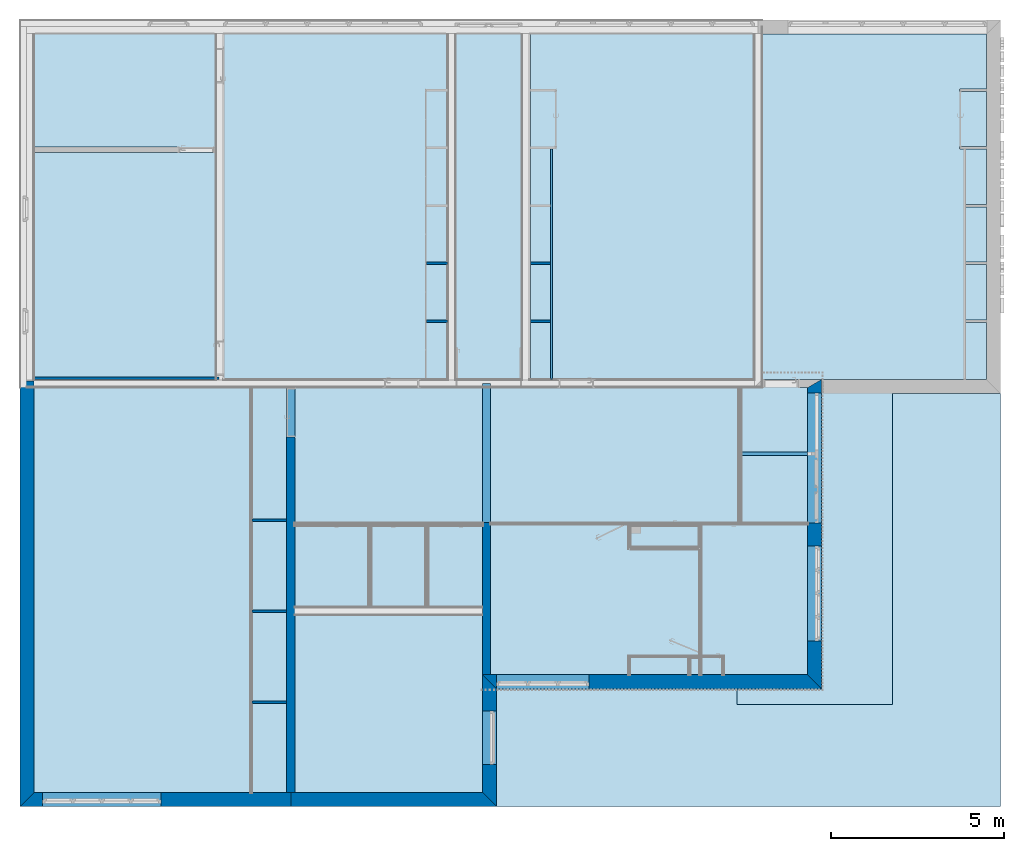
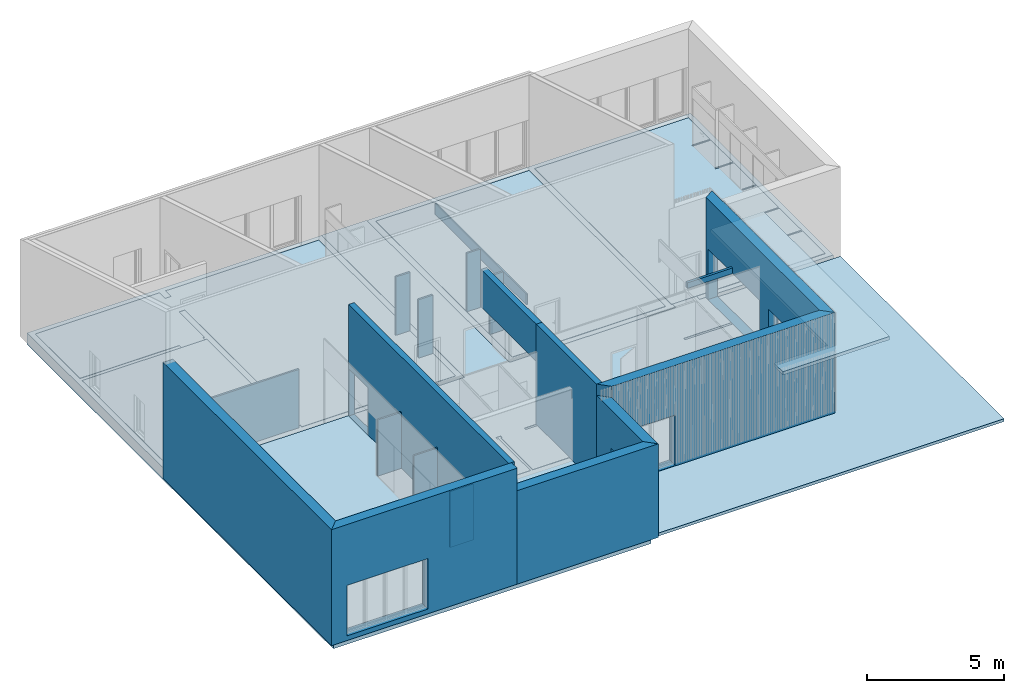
# One storey, part 3 of 34: 19 walls, 7 slabs, 8 openings.
"""IFC2X3 building model written with IfcOpenShell, lengths in metres."""

from ifc_helpers import new_model, entity, si_unit, converted_unit, derived_unit, money_unit, direction, frame, origin_with_axes, origin_2d_with_axis, place, context, subcontext, project, spatial, polyline, rectangle, outline, extrude, material, layer, layer_set, layer_usage, type_object, element, save


model = new_model("IFC2X3")

# Units and contexts
model_context = context("Model", 3, precision=1e-05, world=origin_with_axes(), true_north=direction((0.0, 1.0)))
body_context = subcontext(model_context, "Body", "Model", "MODEL_VIEW")
ifc_project = project(units=[si_unit("LENGTHUNIT", "METRE"), si_unit("AREAUNIT", "SQUARE_METRE"), si_unit("VOLUMEUNIT", "CUBIC_METRE"), converted_unit("PLANEANGLEUNIT", "DEGREE", entity("IfcPlaneAngleMeasure", 0.0174532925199), si_unit("PLANEANGLEUNIT", "RADIAN"), dimensions=[0, 0, 0, 0, 0, 0, 0]), money_unit("CHF"), converted_unit("TIMEUNIT", "Year", entity("IfcTimeMeasure", 31556926.0), si_unit("TIMEUNIT", "SECOND"), dimensions=[0, 0, 1, 0, 0, 0, 0]), si_unit("MASSUNIT", "GRAM", prefix="KILO"), si_unit("THERMODYNAMICTEMPERATUREUNIT", "DEGREE_CELSIUS"), si_unit("LUMINOUSINTENSITYUNIT", "LUMEN"), si_unit("ENERGYUNIT", "JOULE", prefix="MEGA"), derived_unit("THERMALCONDUCTANCEUNIT", [(si_unit("POWERUNIT", "WATT"), 1), (si_unit("LENGTHUNIT", "METRE"), -1), (si_unit("THERMODYNAMICTEMPERATUREUNIT", "KELVIN"), -1)]), derived_unit("SPECIFICHEATCAPACITYUNIT", [(si_unit("ENERGYUNIT", "JOULE"), 1), (si_unit("MASSUNIT", "GRAM", prefix="KILO"), -1), (si_unit("THERMODYNAMICTEMPERATUREUNIT", "KELVIN"), -1)]), derived_unit("MASSDENSITYUNIT", [(si_unit("MASSUNIT", "GRAM", prefix="KILO"), 1), (si_unit("VOLUMEUNIT", "CUBIC_METRE"), -1)])], contexts=[model_context])

# Site, building, storey
site_placement = place(None, origin_with_axes())
site = spatial("IfcSite", under=ifc_project, at=site_placement, Name="Site", CompositionType="ELEMENT")
building_placement = place(site_placement, origin_with_axes())
building = spatial("IfcBuilding", under=site, at=building_placement, Name="Bâtiment", CompositionType="ELEMENT")
storey_placement = place(building_placement, origin_with_axes())
storey = spatial("IfcBuildingStorey", under=building, at=storey_placement, Name="Rez-de-chaussée", CompositionType="ELEMENT", Elevation=0.0)

# Slabs
ifc_material_1 = material(Name="Linoleum")
ifc_layer_1 = layer(ifc_material_1, 0.01, ventilated="UNKNOWN")
ifc_layer_set_1 = layer_set([ifc_layer_1], Name="Linoleum 0.01")
ifc_layer_usage_1 = layer_usage(ifc_layer_set_1, "AXIS3", "NEGATIVE", 0.01)
slab_type_1 = type_object("IfcSlabType", Name="Linoleum 10", PredefinedType="FLOOR")
slab_1_placement = place(storey_placement, frame((32.3194697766, 15.12, 0.0), z_axis=(0.0, 0.0, 1.0), x_axis=(1.0, 0.0, 0.0)))
element("IfcSlab", 1, at=slab_1_placement, inside=storey, type_object=slab_type_1, material=ifc_layer_usage_1, Name="Sol souple posé collée", PredefinedType="FLOOR", context=body_context, shape_type="SweptSolid", body=[
    extrude(outline(polyline([(0.0, 0.0), (0.0450000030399, 0.0), (1.0450000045, 0.0), (6.4799999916, 0.0), (6.4799999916, 1.65000006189), (5.88000005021, 1.65000006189), (5.88000005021, 1.7200000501), (6.4799999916, 1.7200000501), (6.4799999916, 3.31999999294), (5.88000005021, 3.31999999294), (5.88000005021, 3.38999998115), (6.4799999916, 3.38999998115), (6.4799999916, 4.99000007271), (5.88000005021, 4.99000007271), (5.88000005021, 5.06000006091), (6.4799999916, 5.06000006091), (6.4799999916, 6.66000000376), (5.70999997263, 6.66000000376), (5.70999997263, 6.72999999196), (6.4799999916, 6.72999999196), (6.4799999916, 8.32999993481), (5.70999997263, 8.32999993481), (5.70999997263, 8.40000007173), (6.4799999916, 8.40000007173), (6.4799999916, 9.98012566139), (0.759999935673, 9.98012566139), (0.0, 9.98012566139), (0.0, 0.0)])), frame((0.0, 0.0, -0.01), z_axis=(0.0, 0.0, 1.0), x_axis=(1.0, 0.0, 0.0)), (0.0, 0.0, 1.0), 0.01),
])
ifc_layer_usage_2 = layer_usage(ifc_layer_set_1, "AXIS3", "NEGATIVE", 0.01)
slab_2_placement = place(storey_placement, frame((25.6194697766, 25.1001256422, 0.0), z_axis=(0.0, 0.0, 1.0), x_axis=(1.0, 0.0, 0.0)))
element("IfcSlab", 2, at=slab_2_placement, inside=storey, type_object=slab_type_1, material=ifc_layer_usage_2, Name="Sol souple posé collée", PredefinedType="FLOOR", context=body_context, shape_type="SweptSolid", body=[
    extrude(outline(polyline([(0.0, 0.0), (0.0, -9.98012564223), (0.824999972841, -9.98012564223), (1.82499997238, -9.98012564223), (6.45999997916, -9.98012564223), (6.45999997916, 0.0), (0.74000008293, 0.0), (0.0, 0.0)])), frame((0.0, 0.0, -0.01), z_axis=(0.0, 0.0, 1.0), x_axis=(1.0, 0.0, 0.0)), (0.0, 0.0, 1.0), 0.01),
])
ifc_material_2 = material(Name="Chape ciment")
ifc_layer_2 = layer(ifc_material_2, 0.07, ventilated="UNKNOWN")
ifc_material_3 = material(Name="Béton armé (Coulé)")
ifc_layer_3 = layer(ifc_material_3, 0.13, ventilated="UNKNOWN")
ifc_material_4 = material(Name="Isolation - Polystyrène extrudé")
ifc_layer_4 = layer(ifc_material_4, 0.09, ventilated="UNKNOWN")
ifc_material_5 = material(Name="Sable")
ifc_layer_5 = layer(ifc_material_5, 0.05, ventilated="UNKNOWN")
ifc_material_6 = material(Name="Gravier")
ifc_layer_6 = layer(ifc_material_6, 0.18, ventilated="UNKNOWN")
ifc_layer_set_2 = layer_set([ifc_layer_2, ifc_layer_3, ifc_layer_4, ifc_layer_5, ifc_layer_6], Name="Dalle basse sur terre plein sans rvt")
ifc_layer_usage_3 = layer_usage(ifc_layer_set_2, "AXIS3", "NEGATIVE", 0.52)
slab_type_2 = type_object("IfcSlabType", Name="Dalle basse sur terre plein sans rvt 520", PredefinedType="FLOOR")
slab_3_placement = place(storey_placement, frame((11.0494697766, 25.3201256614, -0.08), z_axis=(0.0, 0.0, 1.0), x_axis=(1.0, 0.0, 0.0)))
element("IfcSlab", 3, at=slab_3_placement, inside=storey, type_object=slab_type_2, material=ifc_layer_usage_3, Name="DALLE-001", PredefinedType="FLOOR", context=body_context, shape_type="SweptSolid", body=[
    extrude(outline(polyline([(0.0, 0.0), (0.0, -22.3599601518), (13.4, -22.3599601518), (13.4, -18.96), (22.8, -18.96), (22.8, -10.4201256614), (27.97, -10.4200651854), (27.97, 0.0), (0.0, 0.0)])), frame((0.0, 0.0, -0.45), z_axis=(0.0, 0.0, 1.0), x_axis=(1.0, 0.0, 0.0)), (0.0, 0.0, 1.0), 0.52),
])
ifc_layer_7 = layer(ifc_material_3, 0.15, ventilated="UNKNOWN")
ifc_layer_set_3 = layer_set([ifc_layer_7], Name="Béton armé (Coulé) 0.15")
ifc_layer_usage_4 = layer_usage(ifc_layer_set_3, "AXIS3", "NEGATIVE", 0.15)
slab_type_3 = type_object("IfcSlabType", Name="Béton armé (Coulé) 150", PredefinedType="FLOOR")
slab_4_placement = place(storey_placement, frame((33.849469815, 6.36012563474, 2.95), z_axis=(0.0, 0.0, 1.0), x_axis=(1.0, 0.0, 0.0)))
element("IfcSlab", 4, at=slab_4_placement, inside=storey, type_object=slab_type_3, material=ifc_layer_usage_4, Name="DALLE-001", PredefinedType="FLOOR", context=body_context, shape_type="SweptSolid", body=[
    extrude(outline(polyline([(0.0, 0.0), (-2.2600000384, 0.0), (-2.2600000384, -0.639999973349), (2.23999997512, -0.639999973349), (2.23999997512, 8.53987436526), (0.0, 8.53987436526), (0.0, 0.0)])), frame((0.0, 0.0, -0.15), z_axis=(0.0, 0.0, 1.0), x_axis=(1.0, 0.0, 0.0)), (0.0, 0.0, 1.0), 0.15),
])
ifc_layer_8 = layer(ifc_material_3, 0.13, ventilated="UNKNOWN")
ifc_layer_set_4 = layer_set([ifc_layer_8], Name="Béton armé (Coulé) 0.13")
ifc_layer_usage_5 = layer_usage(ifc_layer_set_4, "AXIS3", "NEGATIVE", 0.13)
slab_type_4 = type_object("IfcSlabType", Name="Béton armé (Coulé) 130", PredefinedType="FLOOR")
slab_5_placement = place(storey_placement, frame((24.6394697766, 6.17012566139, -0.02), z_axis=(0.0, 0.0, 1.0), x_axis=(1.0, 0.0, 0.0)))
element("IfcSlab", 5, at=slab_5_placement, inside=storey, type_object=slab_type_4, material=ifc_layer_usage_5, Name="Sol moquette tufté en dalle", PredefinedType="FLOOR", context=body_context, shape_type="SweptSolid", body=[
    extrude(outline(polyline([(0.0, 0.0), (0.0, -3.39996015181), (14.57, -3.39996015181), (14.57, 8.53987433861), (9.4, 8.53987433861), (9.4, 0.0), (0.0, 0.0)])), frame((0.0, 0.0, -0.13), z_axis=(0.0, 0.0, 1.0), x_axis=(1.0, 0.0, 0.0)), (0.0, 0.0, 1.0), 0.13),
])
ifc_material_7 = material(Name="Moquette")
ifc_layer_9 = layer(ifc_material_7, 0.01, ventilated="UNKNOWN")
ifc_layer_set_5 = layer_set([ifc_layer_9], Name="Moquette 0.01")
ifc_layer_usage_6 = layer_usage(ifc_layer_set_5, "AXIS3", "NEGATIVE", 0.01)
slab_type_5 = type_object("IfcSlabType", Name="Moquette 10", PredefinedType="FLOOR")
slab_6_placement = place(storey_placement, frame((11.2694697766, 21.68, 0.0), z_axis=(0.0, 0.0, 1.0), x_axis=(1.0, 0.0, 0.0)))
element("IfcSlab", 6, at=slab_6_placement, inside=storey, type_object=slab_type_5, material=ifc_layer_usage_6, Name="Sol moquette tufté en dalle", PredefinedType="FLOOR", context=body_context, shape_type="SweptSolid", body=[
    extrude(outline(polyline([(0.0, 0.0), (0.0, -6.49), (5.25, -6.49), (5.25, 0.0), (0.0, 0.0)])), frame((0.0, 0.0, -0.01), z_axis=(0.0, 0.0, 1.0), x_axis=(1.0, 0.0, 0.0)), (0.0, 0.0, 1.0), 0.01),
])
ifc_material_8 = material(Name="Finition sol - Parquet")
ifc_layer_10 = layer(ifc_material_8, 0.01, ventilated="UNKNOWN")
ifc_layer_set_6 = layer_set([ifc_layer_10], Name="Finition sol - Parquet 0.01")
ifc_layer_usage_7 = layer_usage(ifc_layer_set_6, "AXIS3", "NEGATIVE", 0.01)
slab_type_6 = type_object("IfcSlabType", Name="Finition sol - Parquet 10", PredefinedType="FLOOR")
slab_7_placement = place(storey_placement, frame((11.2694697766, 3.18016550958, 0.0), z_axis=(0.0, 0.0, 1.0), x_axis=(1.0, 0.0, 0.0)))
element("IfcSlab", 7, at=slab_7_placement, inside=storey, type_object=slab_type_6, material=ifc_layer_usage_7, Name="Sol souple pose collée", PredefinedType="FLOOR", context=body_context, shape_type="SweptSolid", body=[
    extrude(outline(polyline([(0.0, 0.0), (0.26, 0.0), (3.66, 0.0), (7.3, 0.0), (7.3, 10.2748344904), (7.54, 10.2748344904), (7.54, 7.79996015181), (8.61, 7.79996015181), (8.61, 7.69996015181), (7.54, 7.69996015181), (7.54, 5.35996015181), (9.66, 5.35996015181), (9.66, 7.69996015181), (9.61, 7.69996015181), (9.61, 7.79996015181), (10.26, 7.79996015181), (10.26, 7.69996015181), (9.76, 7.69996015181), (9.76, 5.35996015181), (11.31, 5.35996015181), (11.31, 7.69996015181), (11.26, 7.69996015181), (11.26, 7.79996015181), (11.46, 7.79996015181), (11.46, 7.69996015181), (11.41, 7.69996015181), (11.41, 5.35996015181), (12.96, 5.35996015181), (12.96, 7.69996015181), (12.46, 7.69996015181), (12.46, 7.79996015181), (14.33, 7.79996015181), (16.12, 7.79996015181), (16.12, 7.72996015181), (13.2, 7.72996015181), (13.2, 3.39996015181), (13.38, 3.39996015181), (16.02, 3.39996015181), (18.91, 3.39996015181), (18.91, 3.94996015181), (19.23, 3.94996015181), (19.23, 3.99996015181), (19.3, 3.99996015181), (19.3, 3.94996015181), (19.32, 3.94996015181), (19.32, 3.89996015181), (19.3, 3.89996015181), (19.3, 3.39996015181), (22.36, 3.39996015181), (22.36, 4.39483446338), (22.36, 7.10483446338), (22.36, 7.72996015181), (20.35, 7.72996015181), (20.35, 7.79996015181), (22.58, 7.79996015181), (22.58, 9.73983446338), (20.36, 9.73996015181), (20.36, 9.83983446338), (22.58, 9.83983446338), (22.58, 11.5198344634), (22.36, 11.5198344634), (22.36, 11.6998344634), (22.095, 11.6998344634), (22.095, 11.9398344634), (21.095, 11.9398344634), (21.095, 11.6998344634), (16.175, 11.6998344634), (16.175, 11.9398344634), (15.175, 11.9398344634), (15.175, 11.6998344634), (14.33, 11.6998344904), (14.09, 11.6998344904), (14.09, 22.1399601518), (12.19, 22.1399601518), (12.19, 11.9398344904), (12.19, 11.6998344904), (11.1233396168, 11.6998344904), (11.1233396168, 11.9398344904), (11.95, 11.9398344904), (11.95, 21.9199601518), (5.49, 21.9199601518), (5.49, 21.5124851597), (5.23, 21.5124851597), (5.23, 21.9199601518), (0.0, 21.9199601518), (0.0, 18.6583344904), (4.185, 18.6583344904), (4.185, 18.4998344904), (5.185, 18.4998344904), (5.185, 18.6583344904), (5.25, 18.6583344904), (5.25, 20.5124851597), (5.49, 20.5124851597), (5.49, 13.0548344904), (5.23, 13.0548344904), (5.23, 12.0548344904), (5.47, 12.0548344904), (5.47, 11.9398344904), (10.1233396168, 11.9398344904), (10.1233396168, 11.6998344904), (7.54, 11.6998344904), (7.54, 11.6748344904), (7.3, 11.6748344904), (7.3, 11.6998344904), (0.0, 11.6998344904), (0.0, 0.0)])), frame((0.0, 0.0, -0.01), z_axis=(0.0, 0.0, 1.0), x_axis=(1.0, 0.0, 0.0)), (0.0, 0.0, 1.0), 0.01),
])

# Wall, openings
ifc_material_9 = material(Name="Finition int - Enduit minéral")
ifc_layer_11 = layer(ifc_material_9, 0.01, ventilated="UNKNOWN")
ifc_material_10 = material(Name="Isolation - Fibres de bois")
ifc_layer_12 = layer(ifc_material_10, 0.18, ventilated="UNKNOWN")
ifc_layer_13 = layer(ifc_material_3, 0.2, ventilated="UNKNOWN")
ifc_material_11 = material(Name="Finition int - Enduit plâtre")
ifc_layer_14 = layer(ifc_material_11, 0.02, ventilated="UNKNOWN")
ifc_layer_set_7 = layer_set([ifc_layer_11, ifc_layer_12, ifc_layer_13, ifc_layer_14], Name="Mur 20cm + iso 18 + enduit")
ifc_layer_usage_8 = layer_usage(ifc_layer_set_7, "AXIS2", "NEGATIVE", 0.29)
wall_type_1 = type_object("IfcWallType", Name="Mur 20cm + iso 18 + enduit  410", PredefinedType="NOTDEFINED")
wall_1_placement = place(storey_placement, frame((33.7494697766, 15.07, -0.21), z_axis=(0.0, 0.0, 1.0), x_axis=(0.0, -1.0, 0.0)))
wall_1 = element("IfcWallStandardCase", 8, at=wall_1_placement, inside=storey, type_object=wall_type_1, material=ifc_layer_usage_8, Name="Mur ext 20+18isolant", context=body_context, shape_type="SweptSolid", body=[
    extrude(outline(polyline([(0.19, -0.12), (8.48987433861, -0.12), (8.89987433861, 0.29), (-0.05, 0.29), (0.19, -0.12)])), origin_with_axes(), (0.0, 0.0, 1.0), 4.67),
])
opening_1_placement = place(wall_1_placement, frame((6.14, 0.0, 0.21), z_axis=(0.0, 0.0, 1.0), x_axis=(1.0, 0.0, 0.0)))
element("IfcOpeningElement", 9, at=opening_1_placement, cuts=wall_1, Name="FENETRE-005", context=body_context, shape_type="SweptSolid", body=[
    extrude(rectangle(XDim=2.75, YDim=2.25, at=origin_2d_with_axis()), frame((0.0, 0.2, 1.125), z_axis=(0.0, -1.0, 0.0), x_axis=(-1.0, 0.0, 0.0)), (0.0, 0.0, 1.0), 0.73),
    extrude(rectangle(XDim=2.75, YDim=2.25, at=origin_2d_with_axis()), frame((0.0, 0.2, 1.125), z_axis=(0.0, 1.0, 0.0), x_axis=(-1.0, 0.0, 0.0)), (0.0, 0.0, 1.0), 0.5),
])
opening_2_placement = place(wall_1_placement, frame((2.23000001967, 0.0, 0.21), z_axis=(0.0, 0.0, 1.0), x_axis=(1.0, 0.0, 0.0)))
element("IfcOpeningElement", 10, at=opening_2_placement, cuts=wall_1, Name="PORTE-PP90 A2 - PF1/2H", context=body_context, shape_type="SweptSolid", body=[
    extrude(rectangle(XDim=3.76, YDim=2.25, at=origin_2d_with_axis()), frame((0.0, 0.2, 1.125), z_axis=(0.0, 1.0, 0.0), x_axis=(1.0, 0.0, 0.0)), (0.0, 0.0, -1.0), 0.73),
    extrude(rectangle(XDim=3.76, YDim=2.25, at=origin_2d_with_axis()), frame((0.0, 0.2, 1.125), z_axis=(0.0, -1.0, 0.0), x_axis=(1.0, 0.0, 0.0)), (0.0, 0.0, -1.0), 0.5),
])

# Wall, opening
ifc_layer_usage_9 = layer_usage(ifc_layer_set_7, "AXIS2", "NEGATIVE", 0.29)
wall_2_placement = place(storey_placement, frame((33.7494697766, 6.46012566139, -0.21), z_axis=(0.0, 0.0, 1.0), x_axis=(-1.0, 0.0, 0.0)))
wall_2 = element("IfcWallStandardCase", 11, at=wall_2_placement, inside=storey, type_object=wall_type_1, material=ifc_layer_usage_9, Name="Mur ext 20+18isolant", context=body_context, shape_type="SweptSolid", body=[
    extrude(outline(polyline([(0.12, -0.12), (9.52, -0.12), (9.11, 0.29), (-0.29, 0.29), (0.12, -0.12)])), origin_with_axes(), (0.0, 0.0, 1.0), 4.67),
])
opening_3_placement = place(wall_2_placement, frame((7.78, 0.0, 0.21), z_axis=(0.0, 0.0, 1.0), x_axis=(1.0, 0.0, 0.0)))
element("IfcOpeningElement", 12, at=opening_3_placement, cuts=wall_2, Name="FENETRE-005", context=body_context, shape_type="SweptSolid", body=[
    extrude(rectangle(XDim=2.68, YDim=2.25, at=origin_2d_with_axis()), frame((0.0, 0.2, 1.125), z_axis=(0.0, 1.0, 0.0), x_axis=(-1.0, 0.0, 0.0)), (0.0, 0.0, -1.0), 0.73),
    extrude(rectangle(XDim=2.68, YDim=2.25, at=origin_2d_with_axis()), frame((0.0, 0.2, 1.125), z_axis=(0.0, -1.0, 0.0), x_axis=(-1.0, 0.0, 0.0)), (0.0, 0.0, -1.0), 0.5),
])

# Walls
ifc_layer_usage_10 = layer_usage(ifc_layer_set_7, "AXIS2", "NEGATIVE", 0.29)
wall_3_placement = place(storey_placement, frame((24.3494697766, 3.06016550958, -0.21), z_axis=(0.0, 0.0, 1.0), x_axis=(-1.0, 0.0, 0.0)))
element("IfcWallStandardCase", 13, at=wall_3_placement, inside=storey, type_object=wall_type_1, material=ifc_layer_usage_10, Name="Mur ext 20+18isolant", context=body_context, shape_type="SweptSolid", body=[
    extrude(outline(polyline([(0.12, -0.12), (5.66, -0.12), (5.66, 0.29), (-0.29, 0.29), (0.12, -0.12)])), origin_with_axes(), (0.0, 0.0, 1.0), 4.17),
])
ifc_layer_usage_11 = layer_usage(ifc_layer_set_7, "AXIS2", "NEGATIVE", 0.29)
wall_4_placement = place(storey_placement, frame((11.1494697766, 3.06016550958, -0.21), z_axis=(0.0, 0.0, 1.0), x_axis=(0.0, 1.0, 0.0)))
element("IfcWallStandardCase", 14, at=wall_4_placement, inside=storey, type_object=wall_type_1, material=ifc_layer_usage_11, Name="Mur ext 20+18isolant", context=body_context, shape_type="SweptSolid", body=[
    extrude(outline(polyline([(0.12, -0.12), (12.0098344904, -0.12), (12.0098344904, 0.29), (-0.29, 0.29), (0.12, -0.12)])), origin_with_axes(), (0.0, 0.0, 1.0), 5.17),
])

# Wall, opening
ifc_layer_usage_12 = layer_usage(ifc_layer_set_7, "AXIS2", "NEGATIVE", 0.29)
wall_5_placement = place(storey_placement, frame((24.3494697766, 6.46012566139, -0.21), z_axis=(0.0, 0.0, 1.0), x_axis=(0.0, -1.0, 0.0)))
wall_5 = element("IfcWallStandardCase", 15, at=wall_5_placement, inside=storey, type_object=wall_type_1, material=ifc_layer_usage_12, Name="Mur ext 20+18isolant", context=body_context, shape_type="SweptSolid", body=[
    extrude(outline(polyline([(-0.12, -0.12), (3.27996015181, -0.12), (3.68996015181, 0.29), (0.29, 0.29), (-0.12, -0.12)])), origin_with_axes(), (0.0, 0.0, 1.0), 4.17),
])
opening_4_placement = place(wall_5_placement, frame((1.69996015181, 0.0, 0.21), z_axis=(0.0, 0.0, 1.0), x_axis=(1.0, 0.0, 0.0)))
element("IfcOpeningElement", 16, at=opening_4_placement, cuts=wall_5, Name="FENETRE-005", context=body_context, shape_type="SweptSolid", body=[
    extrude(rectangle(XDim=1.54, YDim=2.25, at=origin_2d_with_axis()), frame((0.0, 0.2, 1.125), z_axis=(0.0, -1.0, 0.0), x_axis=(-1.0, 0.0, 0.0)), (0.0, 0.0, 1.0), 0.73),
    extrude(rectangle(XDim=1.54, YDim=2.25, at=origin_2d_with_axis()), frame((0.0, 0.2, 1.125), z_axis=(0.0, 1.0, 0.0), x_axis=(-1.0, 0.0, 0.0)), (0.0, 0.0, 1.0), 0.5),
])

ifc_layer_usage_13 = layer_usage(ifc_layer_set_7, "AXIS2", "NEGATIVE", 0.29)
wall_6_placement = place(storey_placement, frame((18.6894697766, 3.06016550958, -0.21), z_axis=(0.0, 0.0, 1.0), x_axis=(-1.0, 0.0, 0.0)))
wall_6 = element("IfcWallStandardCase", 17, at=wall_6_placement, inside=storey, type_object=wall_type_1, material=ifc_layer_usage_13, Name="Mur ext 20+18isolant", context=body_context, shape_type="SweptSolid", body=[
    extrude(outline(polyline([(0.0, -0.12), (7.42, -0.12), (7.83, 0.29), (0.0, 0.29), (0.0, -0.12)])), origin_with_axes(), (0.0, 0.0, 1.0), 5.17),
])
opening_5_placement = place(wall_6_placement, frame((5.47, 0.0, 0.21), z_axis=(0.0, 0.0, 1.0), x_axis=(1.0, 0.0, 0.0)))
element("IfcOpeningElement", 18, at=opening_5_placement, cuts=wall_6, Name="FENETRE-005", context=body_context, shape_type="SweptSolid", body=[
    extrude(rectangle(XDim=3.42, YDim=2.25, at=origin_2d_with_axis()), frame((0.0, 0.2, 1.125), z_axis=(0.0, -1.0, 0.0), x_axis=(1.0, 0.0, 0.0)), (0.0, 0.0, 1.0), 0.73),
    extrude(rectangle(XDim=3.42, YDim=2.25, at=origin_2d_with_axis()), frame((0.0, 0.2, 1.125), z_axis=(0.0, 1.0, 0.0), x_axis=(1.0, 0.0, 0.0)), (0.0, 0.0, 1.0), 0.5),
])

# Wall
ifc_layer_15 = layer(ifc_material_11, 0.02, ventilated="UNKNOWN")
ifc_layer_16 = layer(ifc_material_3, 0.2, ventilated="UNKNOWN")
ifc_layer_17 = layer(ifc_material_11, 0.02, ventilated="UNKNOWN")
ifc_layer_set_8 = layer_set([ifc_layer_15, ifc_layer_16, ifc_layer_17], Name="Mur 20cm + enduit 2cm")
ifc_layer_usage_14 = layer_usage(ifc_layer_set_8, "AXIS2", "NEGATIVE", 0.12)
wall_type_2 = type_object("IfcWallType", Name="Mur 20cm + enduit 2cm 240", PredefinedType="NOTDEFINED")
wall_7_placement = place(storey_placement, frame((24.3494697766, 15.0031256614, 2.8), z_axis=(0.0, 0.0, 1.0), x_axis=(0.0, -1.0, 0.0)))
element("IfcWallStandardCase", 19, at=wall_7_placement, inside=storey, type_object=wall_type_2, material=ifc_layer_usage_14, Name="MUR_EXT-006", context=body_context, shape_type="SweptSolid", body=[
    extrude(outline(polyline([(0.0, -0.12), (4.023, -0.12), (4.023, 0.12), (0.0, 0.12), (0.0, -0.12)])), origin_with_axes(), (0.0, 0.0, 1.0), 1.66),
])

# Wall, opening
ifc_layer_usage_15 = layer_usage(ifc_layer_set_8, "AXIS2", "POSITIVE", -0.12)
wall_8_placement = place(storey_placement, frame((18.6894697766, 3.06016550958, -0.21), z_axis=(0.0, 0.0, 1.0), x_axis=(0.0, 1.0, 0.0)))
wall_8 = element("IfcWallStandardCase", 20, at=wall_8_placement, inside=storey, type_object=wall_type_2, material=ifc_layer_usage_15, Name="MUR_EXT-007", context=body_context, shape_type="SweptSolid", body=[
    extrude(outline(polyline([(0.12, -0.12), (11.8198344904, -0.12), (11.8198344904, 0.12), (0.12, 0.12), (0.12, -0.12)])), origin_with_axes(), (0.0, 0.0, 1.0), 5.17),
])
opening_6_placement = place(wall_8_placement, frame((11.0948344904, 0.0, 0.21), z_axis=(0.0, 0.0, 1.0), x_axis=(1.0, 0.0, 0.0)))
element("IfcOpeningElement", 21, at=opening_6_placement, cuts=wall_8, Name="PP 90+40 - A2 - PF 1/2H", context=body_context, shape_type="SweptSolid", body=[
    extrude(rectangle(XDim=1.4, YDim=2.1, at=origin_2d_with_axis()), frame((0.0, 0.24, 1.05), z_axis=(0.0, -1.0, 0.0), x_axis=(1.0, 0.0, 0.0)), (0.0, 0.0, 1.0), 0.72),
    extrude(rectangle(XDim=1.46, YDim=2.13, at=origin_2d_with_axis()), frame((0.0, 0.12, 1.065), z_axis=(0.0, -1.0, 0.0), x_axis=(1.0, 0.0, 0.0)), (0.0, 0.0, -1.0), 0.24),
    extrude(rectangle(XDim=1.45, YDim=2.125, at=origin_2d_with_axis()), frame((0.0, -0.12, 1.0625), z_axis=(0.0, 1.0, 0.0), x_axis=(1.0, 0.0, 0.0)), (0.0, 0.0, -1.0), 0.24),
])

# Walls
ifc_layer_usage_16 = layer_usage(ifc_layer_set_8, "AXIS2", "NEGATIVE", 0.12)
wall_9_placement = place(storey_placement, frame((24.3494697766, 10.9801256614, -0.21), z_axis=(0.0, 0.0, 1.0), x_axis=(0.0, -1.0, 0.0)))
element("IfcWallStandardCase", 22, at=wall_9_placement, inside=storey, type_object=wall_type_2, material=ifc_layer_usage_16, Name="MUR_EXT-006", context=body_context, shape_type="SweptSolid", body=[
    extrude(outline(polyline([(0.0, -0.12), (4.4, -0.12), (4.4, 0.12), (0.0, 0.12), (0.0, -0.12)])), origin_with_axes(), (0.0, 0.0, 1.0), 4.67),
])
ifc_material_12 = material(Name="Finition int - Plaque de plâtre")
ifc_layer_18 = layer(ifc_material_12, 0.013, ventilated="UNKNOWN")
ifc_material_13 = material(Name="Isolation - Laine de verre")
ifc_layer_19 = layer(ifc_material_13, 0.044, ventilated="UNKNOWN")
ifc_layer_20 = layer(ifc_material_12, 0.013, ventilated="UNKNOWN")
ifc_layer_set_9 = layer_set([ifc_layer_18, ifc_layer_19, ifc_layer_20], Name="Cloison 72/48")
ifc_layer_usage_17 = layer_usage(ifc_layer_set_9, "AXIS2", "NEGATIVE", 0.0)
wall_type_3 = type_object("IfcWallType", Name="Cloison 72/48 70", PredefinedType="NOTDEFINED")
wall_10_placement = place(storey_placement, frame((26.1994697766, 16.77, 0.0), z_axis=(0.0, 0.0, 1.0), x_axis=(-1.0, 0.0, 0.0)))
element("IfcWallStandardCase", 23, at=wall_10_placement, inside=storey, type_object=wall_type_3, material=ifc_layer_usage_17, Name="MUR_EXT-006", context=body_context, shape_type="SweptSolid", body=[
    extrude(outline(polyline([(0.0, -0.07), (0.58, -0.07), (0.58, 0.0), (0.0, 0.0), (0.0, -0.07)])), origin_with_axes(), (0.0, 0.0, 1.0), 2.6),
])
ifc_layer_usage_18 = layer_usage(ifc_layer_set_9, "AXIS2", "NEGATIVE", 0.0)
wall_11_placement = place(storey_placement, frame((26.1994697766, 18.44, 0.0), z_axis=(0.0, 0.0, 1.0), x_axis=(-1.0, 0.0, 0.0)))
element("IfcWallStandardCase", 24, at=wall_11_placement, inside=storey, type_object=wall_type_3, material=ifc_layer_usage_18, Name="MUR_EXT-006", context=body_context, shape_type="SweptSolid", body=[
    extrude(outline(polyline([(0.0, -0.07), (0.58, -0.07), (0.58, 0.0), (0.0, 0.0), (0.0, -0.07)])), origin_with_axes(), (0.0, 0.0, 1.0), 2.6),
])
ifc_layer_usage_19 = layer_usage(ifc_layer_set_9, "AXIS2", "POSITIVE", 0.0)
wall_12_placement = place(storey_placement, frame((22.6194697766, 16.77, 0.0), z_axis=(0.0, 0.0, 1.0), x_axis=(1.0, 0.0, 0.0)))
element("IfcWallStandardCase", 25, at=wall_12_placement, inside=storey, type_object=wall_type_3, material=ifc_layer_usage_19, Name="MUR_EXT-006", context=body_context, shape_type="SweptSolid", body=[
    extrude(outline(polyline([(0.0, 0.0), (0.6, 0.0), (0.6, 0.07), (0.0, 0.07), (0.0, 0.0)])), origin_with_axes(), (0.0, 0.0, 1.0), 2.6),
])
ifc_layer_usage_20 = layer_usage(ifc_layer_set_9, "AXIS2", "POSITIVE", 0.0)
wall_13_placement = place(storey_placement, frame((22.6194697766, 18.44, 0.0), z_axis=(0.0, 0.0, 1.0), x_axis=(1.0, 0.0, 0.0)))
element("IfcWallStandardCase", 26, at=wall_13_placement, inside=storey, type_object=wall_type_3, material=ifc_layer_usage_20, Name="MUR_EXT-006", context=body_context, shape_type="SweptSolid", body=[
    extrude(outline(polyline([(0.0, 0.0), (0.6, 0.0), (0.6, 0.07), (0.0, 0.07), (0.0, 0.0)])), origin_with_axes(), (0.0, 0.0, 1.0), 2.6),
])
ifc_layer_usage_21 = layer_usage(ifc_layer_set_9, "AXIS2", "POSITIVE", 0.0)
wall_14_placement = place(storey_placement, frame((17.5694697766, 8.38016550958, 0.0), z_axis=(0.0, 0.0, 1.0), x_axis=(1.0, 0.0, 0.0)))
element("IfcWallStandardCase", 27, at=wall_14_placement, inside=storey, type_object=wall_type_3, material=ifc_layer_usage_21, Name="MUR_EXT-007", context=body_context, shape_type="SweptSolid", body=[
    extrude(outline(polyline([(0.0, 0.0), (1.0, 0.0), (1.0, 0.07), (0.0, 0.07), (0.0, 0.0)])), origin_with_axes(), (0.0, 0.0, 1.0), 2.5),
])
ifc_layer_usage_22 = layer_usage(ifc_layer_set_9, "AXIS2", "POSITIVE", 0.0)
wall_15_placement = place(storey_placement, frame((17.5694697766, 11.0101655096, 0.0), z_axis=(0.0, 0.0, 1.0), x_axis=(1.0, 0.0, 0.0)))
element("IfcWallStandardCase", 28, at=wall_15_placement, inside=storey, type_object=wall_type_3, material=ifc_layer_usage_22, Name="MUR_EXT-008", context=body_context, shape_type="SweptSolid", body=[
    extrude(outline(polyline([(0.0, 0.0), (1.0, 0.0), (1.0, 0.07), (0.0, 0.07), (0.0, 0.0)])), origin_with_axes(), (0.0, 0.0, 1.0), 2.5),
])
ifc_layer_usage_23 = layer_usage(ifc_layer_set_9, "AXIS2", "POSITIVE", 0.0)
wall_16_placement = place(storey_placement, frame((17.5694697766, 5.75016550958, 0.0), z_axis=(0.0, 0.0, 1.0), x_axis=(1.0, 0.0, 0.0)))
element("IfcWallStandardCase", 29, at=wall_16_placement, inside=storey, type_object=wall_type_3, material=ifc_layer_usage_23, Name="MUR_EXT-006", context=body_context, shape_type="SweptSolid", body=[
    extrude(outline(polyline([(0.0, 0.0), (1.0, 0.0), (1.0, 0.07), (0.0, 0.07), (0.0, 0.0)])), origin_with_axes(), (0.0, 0.0, 1.0), 2.5),
])
ifc_layer_usage_24 = layer_usage(ifc_layer_set_9, "AXIS2", "NEGATIVE", 0.0)
wall_17_placement = place(storey_placement, frame((11.1494697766, 15.19, 0.0), z_axis=(0.0, 0.0, 1.0), x_axis=(1.0, 0.0, 0.0)))
element("IfcWallStandardCase", 30, at=wall_17_placement, inside=storey, type_object=wall_type_3, material=ifc_layer_usage_24, Name="MUR_EXT-006", context=body_context, shape_type="SweptSolid", body=[
    extrude(outline(polyline([(0.12, -0.07), (5.47, -0.07), (5.47, 0.0), (0.12, 0.0), (0.12, -0.07)])), origin_with_axes(), (0.0, 0.0, 1.0), 2.6),
])

# Wall, opening
ifc_layer_21 = layer(ifc_material_12, 0.013, ventilated="UNKNOWN")
ifc_layer_22 = layer(ifc_material_13, 0.024, ventilated="UNKNOWN")
ifc_layer_23 = layer(ifc_material_12, 0.013, ventilated="UNKNOWN")
ifc_layer_set_10 = layer_set([ifc_layer_21, ifc_layer_22, ifc_layer_23], Name="Cloison 50")
ifc_layer_usage_25 = layer_usage(ifc_layer_set_10, "AXIS2", "NEGATIVE", 0.05)
wall_type_4 = type_object("IfcWallType", Name="Cloison 50 50", PredefinedType="NOTDEFINED")
wall_18_placement = place(storey_placement, frame((26.1994697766, 21.78, 0.0), z_axis=(0.0, 0.0, 1.0), x_axis=(0.0, -1.0, 0.0)))
wall_18 = element("IfcWallStandardCase", 31, at=wall_18_placement, inside=storey, type_object=wall_type_4, material=ifc_layer_usage_25, Name="MUR_EXT-006", context=body_context, shape_type="SweptSolid", body=[
    extrude(outline(polyline([(0.0, 0.0), (6.66, 0.0), (6.66, 0.05), (0.0, 0.05), (0.0, 0.0)])), origin_with_axes(), (0.0, 0.0, 1.0), 2.6),
])
opening_7_placement = place(wall_18_placement, frame((3.33, 0.0, 0.0), z_axis=(0.0, 0.0, 1.0), x_axis=(1.0, 0.0, 0.0)))
element("IfcOpeningElement", 32, at=opening_7_placement, cuts=wall_18, Name="Portes placard couliisantes 4x2panneaux", context=body_context, shape_type="SweptSolid", body=[
    extrude(rectangle(XDim=6.66, YDim=2.13, at=origin_2d_with_axis()), frame((0.0, -0.05, 1.065), z_axis=(0.0, -1.0, 0.0), x_axis=(1.0, 0.0, 0.0)), (0.0, 0.0, -1.0), 0.15),
])

ifc_layer_24 = layer(ifc_material_12, 0.013, ventilated="UNKNOWN")
ifc_layer_25 = layer(ifc_material_12, 0.013, ventilated="UNKNOWN")
ifc_layer_26 = layer(ifc_material_13, 0.048, ventilated="UNKNOWN")
ifc_layer_27 = layer(ifc_material_12, 0.013, ventilated="UNKNOWN")
ifc_layer_28 = layer(ifc_material_12, 0.013, ventilated="UNKNOWN")
ifc_layer_set_11 = layer_set([ifc_layer_24, ifc_layer_25, ifc_layer_26, ifc_layer_27, ifc_layer_28], Name="Cloison 100/48")
ifc_layer_usage_26 = layer_usage(ifc_layer_set_11, "AXIS2", "POSITIVE", -0.05)
wall_type_5 = type_object("IfcWallType", Name="Cloison 100/48 100", PredefinedType="NOTDEFINED")
wall_19_placement = place(storey_placement, frame((31.6794697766, 12.97, 0.0), z_axis=(0.0, 0.0, 1.0), x_axis=(1.0, 0.0, 0.0)))
wall_19 = element("IfcWallStandardCase", 33, at=wall_19_placement, inside=storey, type_object=wall_type_5, material=ifc_layer_usage_26, Name="MUR_EXT-009", context=body_context, shape_type="SweptSolid", body=[
    extrude(outline(polyline([(0.05, -0.05), (1.95, -0.05), (1.95, 0.05), (0.05, 0.05), (0.05, -0.05)])), origin_with_axes(), (0.0, 0.0, 1.0), 2.5),
])
opening_8_placement = place(wall_19_placement, frame((1.06, 0.0, 0.0), z_axis=(0.0, 0.0, 1.0), x_axis=(1.0, 0.0, 0.0)))
element("IfcOpeningElement", 34, at=opening_8_placement, cuts=wall_19, Name="FENETRE-005", context=body_context, shape_type="SweptSolid", body=[
    extrude(rectangle(XDim=2.22, YDim=2.25, at=origin_2d_with_axis()), frame((0.0, 0.1, 1.125), z_axis=(0.0, -1.0, 0.0), x_axis=(1.0, 0.0, 0.0)), (0.0, 0.0, 1.0), 0.3),
])

save(model, "model.ifc")
